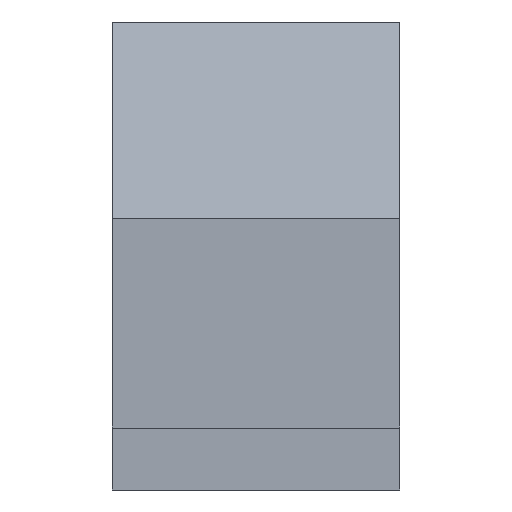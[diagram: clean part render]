
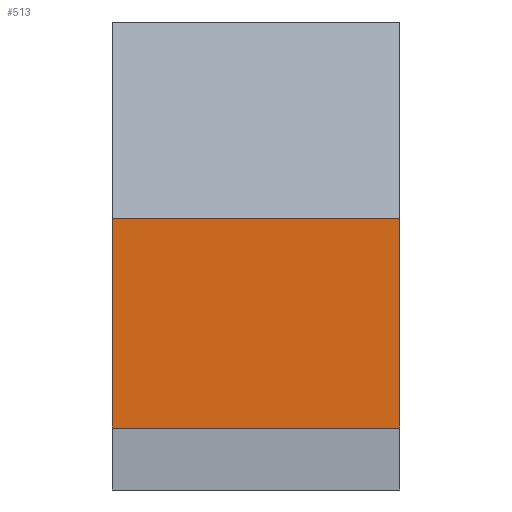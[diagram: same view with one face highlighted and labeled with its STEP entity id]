
A CAD part, front view. The second image highlights one B-rep face of the part: STEP entity #513.
In plain terms, the highlighted planar face has unit normal (0, -1, 0).
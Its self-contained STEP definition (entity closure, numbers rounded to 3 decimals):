
#408 = VERTEX_POINT('',#409);
#409 = CARTESIAN_POINT('',(17.5,-60.516,-49.516));
#415 = EDGE_CURVE('',#416,#408,#418,.T.);
#416 = VERTEX_POINT('',#417);
#417 = CARTESIAN_POINT('',(-17.5,-60.516,-49.516));
#418 = LINE('',#419,#420);
#419 = CARTESIAN_POINT('',(0.,-60.516,-49.516));
#420 = VECTOR('',#421,1.);
#421 = DIRECTION('',(1.,0.,0.));
#438 = VERTEX_POINT('',#439);
#439 = CARTESIAN_POINT('',(17.5,-60.516,-48.916));
#456 = VERTEX_POINT('',#457);
#457 = CARTESIAN_POINT('',(17.5,-60.516,-24.765));
#463 = EDGE_CURVE('',#438,#456,#464,.T.);
#464 = LINE('',#465,#466);
#465 = CARTESIAN_POINT('',(17.5,-60.516,-24.516));
#466 = VECTOR('',#467,1.);
#467 = DIRECTION('',(-0.,0.,1.));
#478 = VERTEX_POINT('',#479);
#479 = CARTESIAN_POINT('',(-17.5,-60.516,-48.916));
#487 = EDGE_CURVE('',#488,#478,#490,.T.);
#488 = VERTEX_POINT('',#489);
#489 = CARTESIAN_POINT('',(-17.5,-60.516,-24.765));
#490 = LINE('',#491,#492);
#491 = CARTESIAN_POINT('',(-17.5,-60.516,-51.016));
#492 = VECTOR('',#493,1.);
#493 = DIRECTION('',(-0.,0.,-1.));
#513 = ADVANCED_FACE('',(#514),#553,.F.);
#514 = FACE_BOUND('',#515,.T.);
#515 = EDGE_LOOP('',(#516,#517,#523,#524,#530,#531,#539,#547));
#516 = ORIENTED_EDGE('',*,*,#487,.T.);
#517 = ORIENTED_EDGE('',*,*,#518,.T.);
#518 = EDGE_CURVE('',#478,#416,#519,.T.);
#519 = LINE('',#520,#521);
#520 = CARTESIAN_POINT('',(-17.5,-60.516,-48.916));
#521 = VECTOR('',#522,1.);
#522 = DIRECTION('',(0.,0.,-1.));
#523 = ORIENTED_EDGE('',*,*,#415,.T.);
#524 = ORIENTED_EDGE('',*,*,#525,.F.);
#525 = EDGE_CURVE('',#438,#408,#526,.T.);
#526 = LINE('',#527,#528);
#527 = CARTESIAN_POINT('',(17.5,-60.516,0.));
#528 = VECTOR('',#529,1.);
#529 = DIRECTION('',(-0.,0.,-1.));
#530 = ORIENTED_EDGE('',*,*,#463,.T.);
#531 = ORIENTED_EDGE('',*,*,#532,.T.);
#532 = EDGE_CURVE('',#456,#533,#535,.T.);
#533 = VERTEX_POINT('',#534);
#534 = CARTESIAN_POINT('',(17.5,-60.516,-23.895));
#535 = LINE('',#536,#537);
#536 = CARTESIAN_POINT('',(17.5,-60.516,-24.765));
#537 = VECTOR('',#538,1.);
#538 = DIRECTION('',(0.,0.,1.));
#539 = ORIENTED_EDGE('',*,*,#540,.T.);
#540 = EDGE_CURVE('',#533,#541,#543,.T.);
#541 = VERTEX_POINT('',#542);
#542 = CARTESIAN_POINT('',(-17.5,-60.516,-23.895));
#543 = LINE('',#544,#545);
#544 = CARTESIAN_POINT('',(0.,-60.516,-23.895));
#545 = VECTOR('',#546,1.);
#546 = DIRECTION('',(-1.,0.,0.));
#547 = ORIENTED_EDGE('',*,*,#548,.F.);
#548 = EDGE_CURVE('',#488,#541,#549,.T.);
#549 = LINE('',#550,#551);
#550 = CARTESIAN_POINT('',(-17.5,-60.516,0.));
#551 = VECTOR('',#552,1.);
#552 = DIRECTION('',(0.,0.,1.));
#553 = PLANE('',#554);
#554 = AXIS2_PLACEMENT_3D('',#555,#556,#557);
#555 = CARTESIAN_POINT('',(0.,-60.516,0.));
#556 = DIRECTION('',(0.,1.,0.));
#557 = DIRECTION('',(0.,0.,1.));
